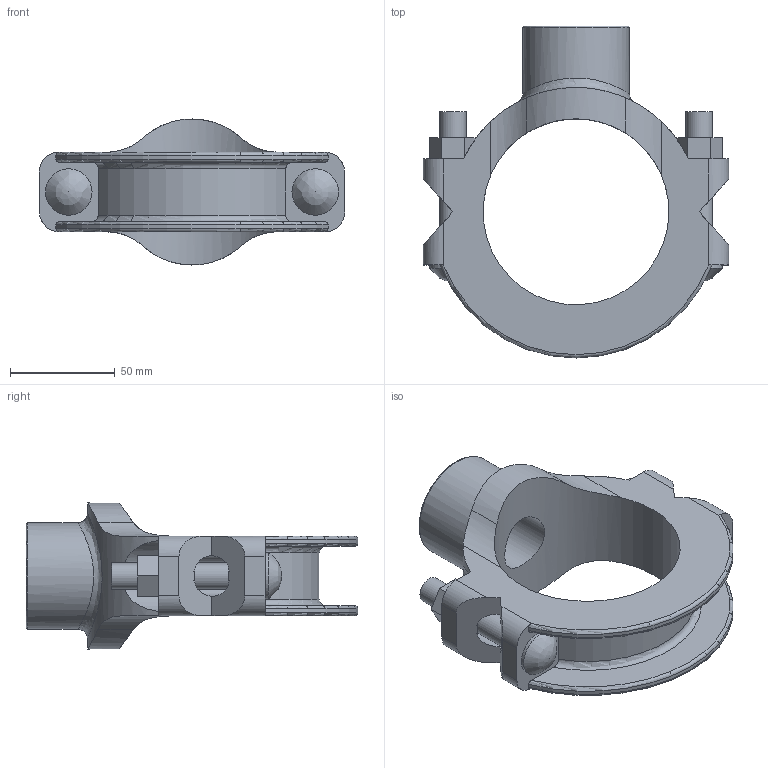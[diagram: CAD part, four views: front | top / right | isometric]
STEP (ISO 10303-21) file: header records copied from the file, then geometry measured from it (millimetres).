
FILE_DESCRIPTION(/* description */ ('VIC SS MECHANICAL T BRANCH OUTLET STYLE 422 (BSPP)','CAx-IF Rec.Pracs.---Representation and Presentation of Product Manufacturing Information (PMI)---4.0---2014-10-13'),/* implementation_level */ '2;1');
FILE_NAME(/* name */ 'C:\Files for Export\422\STEP\Victaulic_SS-OGS_Mech-Tee Out_Style 422 (BSPP)\Victaulic_SS-OGS_Mech-Tee Out_Style 422 (BSPP)_03.0x01.0 (80x25).stp',/* time_stamp */ '2023-03-28T14:24:09+02:00',/* author */ ('jheald'),/* organization */ ('Victaulic'),/* preprocessor_version */ 'ST-DEVELOPER v18.1',/* originating_system */ 'Autodesk Inventor 2020',/* authorisation */ '');
FILE_SCHEMA (('AP242_MANAGED_MODEL_BASED_3D_ENGINEERING_MIM_LF { 1 0 10303 442 1 1 4 }'));
Length unit declared in the file: inch
Products named in the file (1): 422-03.0x01.0
Bounding box: 146.05 x 158.75 x 69.85 mm (x, y, z)
Volume: 268314.2 mm3; surface area: 70486.7 mm2
Topology: 1 solids, 1 shells, 88 faces, 266 edges, 180 vertices
Faces by surface type: plane 44, cylinder 34, torus 7, bspline 3
Full cylindrical faces by diameter (mm): 12.7 x4, 22.225 x2, 26.987 x1, 33.401 x1, 50.8 x1, 88.9 x1
Entity records: 3804 total; most frequent: CARTESIAN_POINT 1172, ORIENTED_EDGE 528, DIRECTION 520, EDGE_CURVE 264, AXIS2_PLACEMENT_3D 190, VERTEX_POINT 180, LINE 140, VECTOR 140
